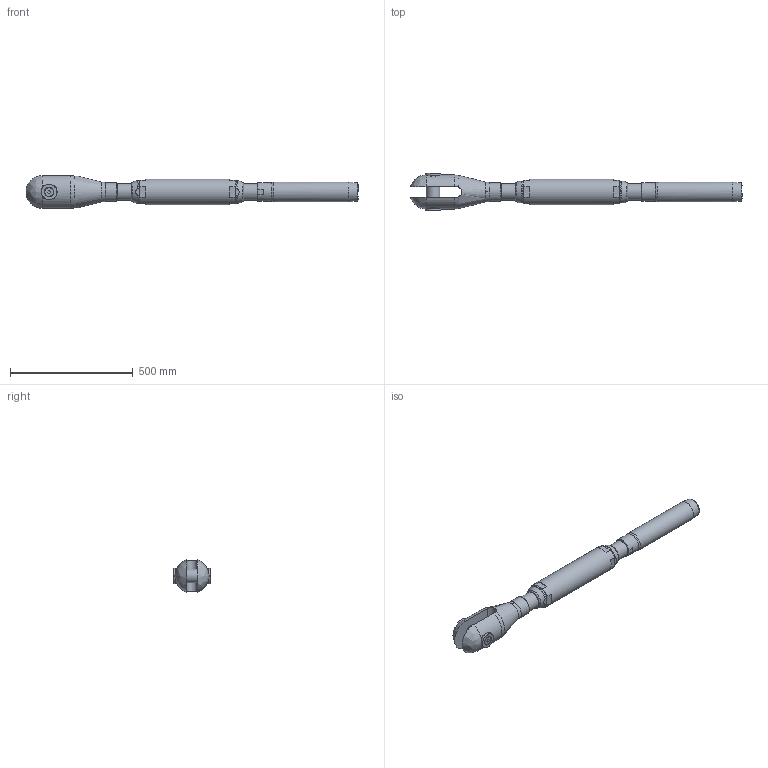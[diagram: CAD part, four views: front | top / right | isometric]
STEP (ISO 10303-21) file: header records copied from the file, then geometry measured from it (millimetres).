
FILE_DESCRIPTION(/* description */ (''),/* implementation_level */ '2;1');
FILE_NAME(/* name */ 'TBC 38_S355',/* time_stamp */ '2023-05-23T18:17:47+02:00',/* author */ (''),/* organization */ (''),/* preprocessor_version */ 'ST-DEVELOPER v16.5',/* originating_system */ 'Rhino 7.22',/* authorisation */ '');
FILE_SCHEMA (('CONFIG_CONTROL_DESIGN'));
Length unit declared in the file: millimetre
Products named in the file (1): Document
Bounding box: 1352.13 x 152.22 x 132.5 mm (x, y, z)
Volume: 8803136.6 mm3; surface area: 716819.5 mm2
Topology: 10 solids, 10 shells, 140 faces, 382 edges, 264 vertices
Faces by surface type: plane 65, bspline 40, cylinder 35
Full cylindrical faces by diameter (mm): 17.294 x2, 20 x2, 21 x2, 35.4 x2, 55 x1, 56 x2, 63 x2, 64.752 x4, 68 x2, 72 x1, 77 x2, 81 x1, 104 x1
Entity records: 5943 total; most frequent: CARTESIAN_POINT 3518, ORIENTED_EDGE 756, EDGE_CURVE 378, VERTEX_POINT 264, EDGE_LOOP 160, B_SPLINE_CURVE_WITH_KNOTS 157, ADVANCED_FACE 140, FACE_OUTER_BOUND 140
